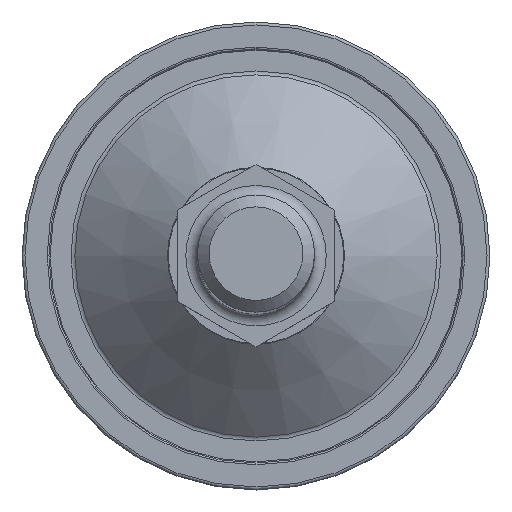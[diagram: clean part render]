
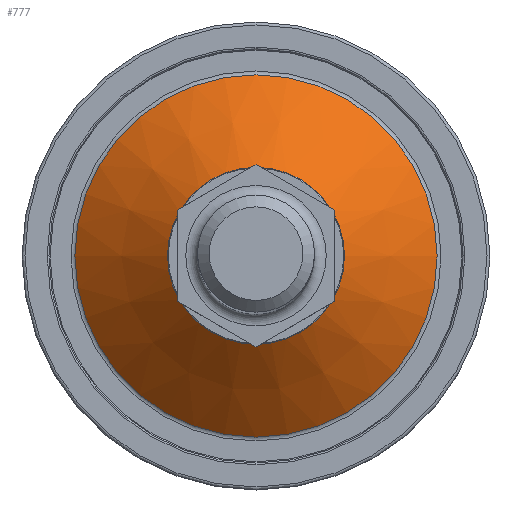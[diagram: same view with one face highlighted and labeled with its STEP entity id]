
A CAD part, top view. The second image highlights one B-rep face of the part: STEP entity #777.
In plain terms, the highlighted conical face has half-angle 49.002 degrees and reference radius 23.047 mm.
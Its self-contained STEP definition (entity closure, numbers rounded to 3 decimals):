
#87=CONICAL_SURFACE('',#863,23.047,49.002);
#104=FACE_BOUND('',#245,.T.);
#167=FACE_OUTER_BOUND('',#244,.T.);
#244=EDGE_LOOP('',(#597));
#245=EDGE_LOOP('',(#598));
#367=CIRCLE('',#849,15.124);
#375=CIRCLE('',#862,30.97);
#430=VERTEX_POINT('',#1267);
#438=VERTEX_POINT('',#1288);
#505=EDGE_CURVE('',#430,#430,#367,.T.);
#513=EDGE_CURVE('',#438,#438,#375,.T.);
#597=ORIENTED_EDGE('',*,*,#505,.T.);
#598=ORIENTED_EDGE('',*,*,#513,.F.);
#777=ADVANCED_FACE('',(#167,#104),#87,.T.);
#849=AXIS2_PLACEMENT_3D('',#1268,#987,#988);
#862=AXIS2_PLACEMENT_3D('',#1289,#1013,#1014);
#863=AXIS2_PLACEMENT_3D('',#1290,#1015,#1016);
#987=DIRECTION('center_axis',(0.,0.,-1.));
#988=DIRECTION('ref_axis',(1.,0.,0.));
#1013=DIRECTION('center_axis',(0.,0.,-1.));
#1014=DIRECTION('ref_axis',(1.,0.,0.));
#1015=DIRECTION('center_axis',(0.,0.,-1.));
#1016=DIRECTION('ref_axis',(1.,0.,0.));
#1267=CARTESIAN_POINT('',(91.933,169.802,-444.11));
#1268=CARTESIAN_POINT('Origin',(107.057,169.802,-444.11));
#1288=CARTESIAN_POINT('',(76.087,169.802,-457.884));
#1289=CARTESIAN_POINT('Origin',(107.057,169.802,-457.884));
#1290=CARTESIAN_POINT('Origin',(107.057,169.802,-450.997));
